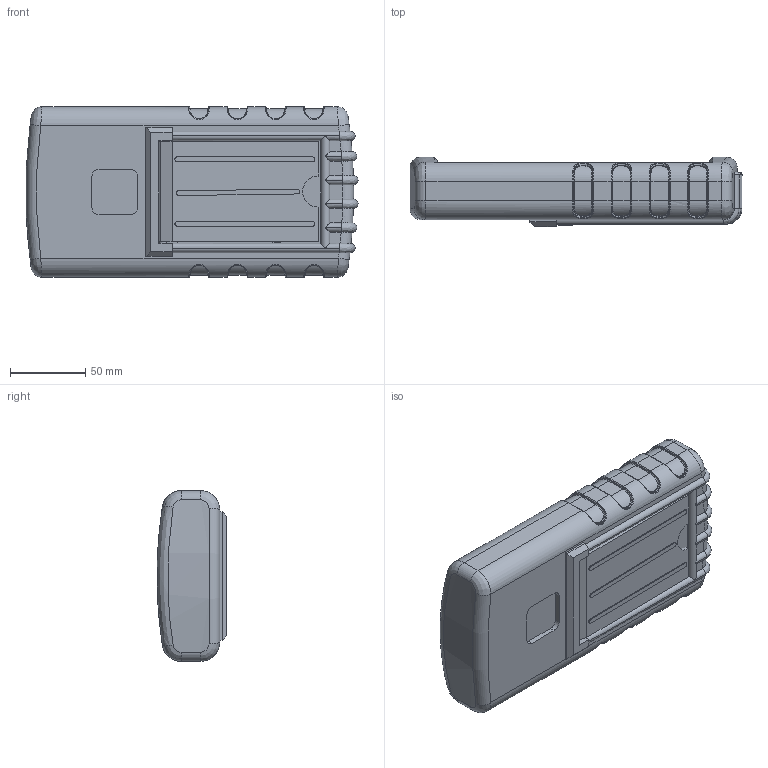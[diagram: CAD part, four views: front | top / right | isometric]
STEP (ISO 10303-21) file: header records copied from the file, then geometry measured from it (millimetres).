
FILE_DESCRIPTION (( 'STEP AP214' ), '1' );
FILE_NAME ('100-42-4A-R.STEP', '2020-11-20T00:16:27', ( 'Rudy' ), ( '' ), 'SwSTEP 2.0', 'SolidWorks 2016', '' );
FILE_SCHEMA (( 'AUTOMOTIVE_DESIGN' ));
Length unit declared in the file: inch
Products named in the file (8): 100 RBT; 100 Stand; 100-4AA PCB; 4AAdoor; 100-04-recessed Top; 100-02 BOT-4AA; 100-42-4A-R
Assembly tree (7 placements, depth 3):
  100-42-4A-R
    100-02 BOT-4AA
    100-04-recessed Top
    4AAdoor
    100-4AA PCB
    100 RBT
      100 RBT
      100 Stand
Bounding box: 220.37 x 46.01 x 113.28 mm (x, y, z)
Volume: 346397.8 mm3; surface area: 268264.4 mm2
Topology: 6 solids, 6 shells, 1499 faces, 3960 edges, 2477 vertices
Faces by surface type: plane 767, cylinder 434, bspline 148, torus 114, cone 32, sphere 4
Entity records: 56908 total; most frequent: CARTESIAN_POINT 20810, ORIENTED_EDGE 7840, DIRECTION 7037, EDGE_CURVE 3920, VERTEX_POINT 2469, LINE 2419, VECTOR 2419, AXIS2_PLACEMENT_3D 2309
